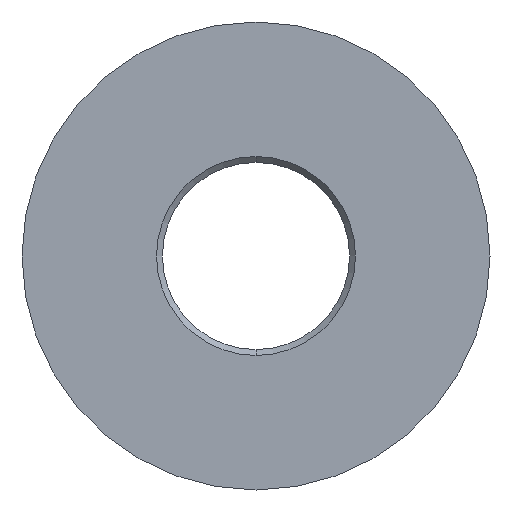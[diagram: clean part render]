
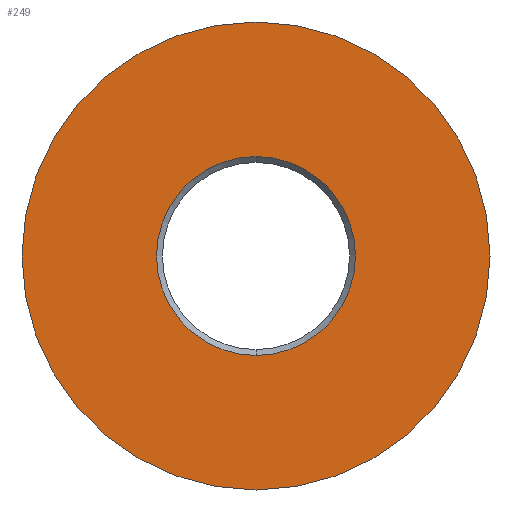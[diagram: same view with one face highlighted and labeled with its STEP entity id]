
A CAD part, front view. The second image highlights one B-rep face of the part: STEP entity #249.
In plain terms, the highlighted planar face has unit normal (0, -1, 0).
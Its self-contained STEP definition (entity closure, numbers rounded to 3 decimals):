
#14 = DIRECTION ( 'NONE',  ( 0., 0., -1. ) ) ;
#17 = CARTESIAN_POINT ( 'NONE',  ( 0., -7., 0. ) ) ;
#53 = CARTESIAN_POINT ( 'NONE',  ( 0., -7., 0. ) ) ;
#73 = AXIS2_PLACEMENT_3D ( 'NONE', #177, #357, #349 ) ;
#77 = CARTESIAN_POINT ( 'NONE',  ( -4.25, -7., 0. ) ) ;
#94 = DIRECTION ( 'NONE',  ( 0., -1., 0. ) ) ;
#96 = EDGE_CURVE ( 'NONE', #305, #370, #250, .T. ) ;
#114 = FACE_BOUND ( 'NONE', #289, .T. ) ;
#120 = AXIS2_PLACEMENT_3D ( 'NONE', #53, #154, #334 ) ;
#123 = EDGE_CURVE ( 'NONE', #131, #324, #320, .T. ) ;
#129 = ORIENTED_EDGE ( 'NONE', *, *, #96, .T. ) ;
#131 = VERTEX_POINT ( 'NONE', #326 ) ;
#137 = FACE_OUTER_BOUND ( 'NONE', #161, .T. ) ;
#154 = DIRECTION ( 'NONE',  ( 0., -1., 0. ) ) ;
#159 = DIRECTION ( 'NONE',  ( 0., 0., 1. ) ) ;
#161 = EDGE_LOOP ( 'NONE', ( #196, #129 ) ) ;
#170 = CARTESIAN_POINT ( 'NONE',  ( 0., -7., -10. ) ) ;
#177 = CARTESIAN_POINT ( 'NONE',  ( 0., -7., 0. ) ) ;
#195 = AXIS2_PLACEMENT_3D ( 'NONE', #268, #277, #389 ) ;
#196 = ORIENTED_EDGE ( 'NONE', *, *, #356, .T. ) ;
#204 = CIRCLE ( 'NONE', #120, 10. ) ;
#205 = ORIENTED_EDGE ( 'NONE', *, *, #123, .F. ) ;
#216 = CIRCLE ( 'NONE', #195, 4.25 ) ;
#243 = PLANE ( 'NONE',  #364 ) ;
#249 = ADVANCED_FACE ( 'NONE', ( #114, #137 ), #243, .F. ) ;
#250 = CIRCLE ( 'NONE', #352, 10. ) ;
#260 = ORIENTED_EDGE ( 'NONE', *, *, #366, .F. ) ;
#268 = CARTESIAN_POINT ( 'NONE',  ( 0., -7., 0. ) ) ;
#277 = DIRECTION ( 'NONE',  ( 0., -1., 0. ) ) ;
#289 = EDGE_LOOP ( 'NONE', ( #205, #260 ) ) ;
#305 = VERTEX_POINT ( 'NONE', #306 ) ;
#306 = CARTESIAN_POINT ( 'NONE',  ( 0., -7., 10. ) ) ;
#320 = CIRCLE ( 'NONE', #73, 4.25 ) ;
#324 = VERTEX_POINT ( 'NONE', #351 ) ;
#326 = CARTESIAN_POINT ( 'NONE',  ( 0., -7., -4.25 ) ) ;
#334 = DIRECTION ( 'NONE',  ( 0., 0., -1. ) ) ;
#349 = DIRECTION ( 'NONE',  ( 0., 0., -1. ) ) ;
#351 = CARTESIAN_POINT ( 'NONE',  ( 0., -7., 4.25 ) ) ;
#352 = AXIS2_PLACEMENT_3D ( 'NONE', #17, #94, #14 ) ;
#356 = EDGE_CURVE ( 'NONE', #370, #305, #204, .T. ) ;
#357 = DIRECTION ( 'NONE',  ( 0., -1., 0. ) ) ;
#363 = DIRECTION ( 'NONE',  ( 0., 1., 0. ) ) ;
#364 = AXIS2_PLACEMENT_3D ( 'NONE', #77, #363, #159 ) ;
#366 = EDGE_CURVE ( 'NONE', #324, #131, #216, .T. ) ;
#370 = VERTEX_POINT ( 'NONE', #170 ) ;
#389 = DIRECTION ( 'NONE',  ( 0., 0., -1. ) ) ;
